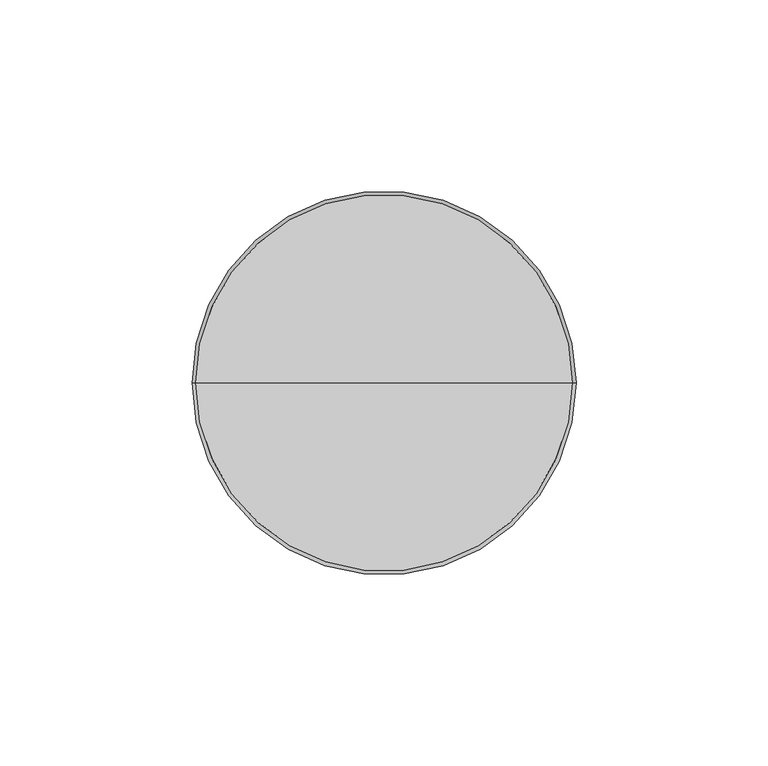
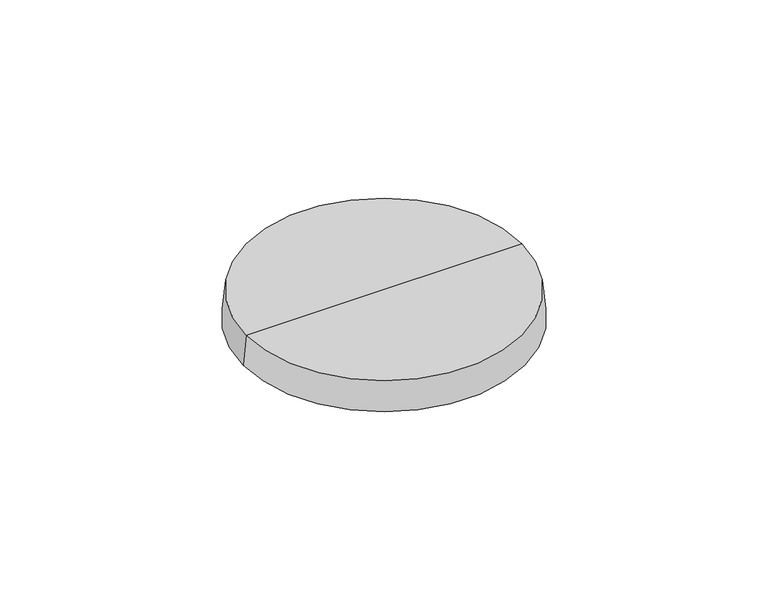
"""IFC4 building model written with IfcOpenShell, lengths in millimetres: sanitary terminal geometry, NLRS_PF_52_UN_Aqua Round_in_uitloop_Easydrain : Aqua Round onderuitloop 50mm, zij-ingang 40mm."""

from ifc_helpers import new_model, si_unit, frame, origin, place, context, project, spatial, polyline, circle_curve, source, transform, mapped, element, save
from ifc_brep_helpers import plane_surface, revolved_surface, advanced_brep


def sanitary_terminal_cf954fec(model_context):
    return source(origin(), model_context, "Body", "AdvancedBrep", [
        advanced_brep(
        [(49.0, 0.0, 0.0), (-49.0, 0.0, 0.0), (0.0, 0.0, 0.0), (50.0, 0.0, -11.0), (-50.0, 0.0, -11.0), (0.0, 0.0, -11.0)],
        [
            (0, 1, circle_curve(frame((0.0, 0.0, 0.0), z_axis=(0.0, 0.0, 1.0), x_axis=(-1.0, 0.0, 0.0)), 49.0)),
            (1, 2),
            (2, 0),
            (1, 0, circle_curve(frame((0.0, 0.0, 0.0), z_axis=(0.0, 0.0, 1.0), x_axis=(-1.0, 0.0, 0.0)), 49.0)),
            (0, 3),
            (3, 4, circle_curve(frame((0.0, 0.0, -11.0), z_axis=(0.0, 0.0, 1.0), x_axis=(-1.0, 0.0, 0.0)), 50.0)),
            (4, 1),
            (4, 3, circle_curve(frame((0.0, 0.0, -11.0), z_axis=(0.0, 0.0, 1.0), x_axis=(-1.0, 0.0, 0.0)), 50.0)),
            (3, 5),
            (5, 4),
        ],
        [
            plane_surface(frame((0.0, 0.0, 0.0), z_axis=(0.0, 0.0, 1.0), x_axis=(-1.0, 0.0, 0.0))),
            revolved_surface(polyline([(-49.0, 0.0, 0.0), (-50.0, 0.0, -11.0)]), (0.0, 0.0, 10.0), (0.0, 0.0, -1.0)),
            plane_surface(frame((0.0, 0.0, -11.0), z_axis=(0.0, 0.0, -1.0), x_axis=(-1.0, 0.0, 0.0))),
        ],
        [
            (0, [[1, 2, 3]]),
            (0, [[-2, 4, -3]]),
            (1, [[-1, 5, 6, 7]]),
            (1, [[-4, -7, 8, -5]]),
            (2, [[-6, 9, 10]]),
            (2, [[-8, -10, -9]]),
        ],
    ),
    ])


if __name__ == "__main__":
    model = new_model("IFC4")
    model_context = context("Model", 3, world=origin())
    ifc_project = project(units=[si_unit("LENGTHUNIT", "METRE", prefix="MILLI")], contexts=[model_context])
    site = spatial("IfcSite", under=ifc_project)
    building = spatial("IfcBuilding", under=site)
    placement = place(None, origin())
    sanitary_terminal_shape = sanitary_terminal_cf954fec(model_context)
    element("IfcSanitaryTerminal", 1, ObjectType="NLRS_PF_52_UN_Aqua Round_in_uitloop_Easydrain : Aqua Round onderuitloop 50mm, zij-ingang 40mm", at=placement, inside=building, context=model_context, shape_type="MappedRepresentation", body=[
        mapped(sanitary_terminal_shape, transform((0.0, 0.0, 0.0), x_axis=(1.0, 0.0, 0.0), y_axis=(0.0, 1.0, 0.0), z_axis=(0.0, 0.0, 1.0))),
    ])
    save(model, "model.ifc")
